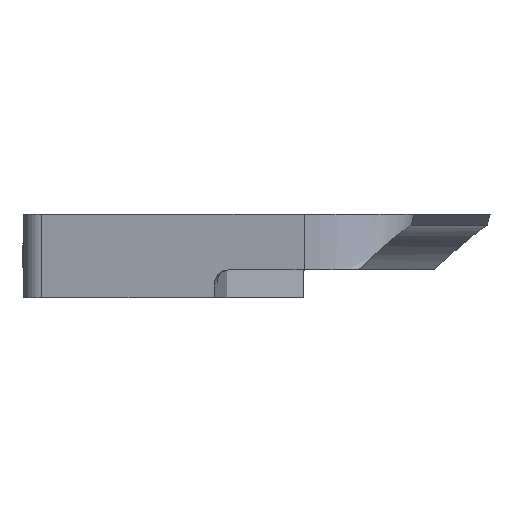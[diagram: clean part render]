
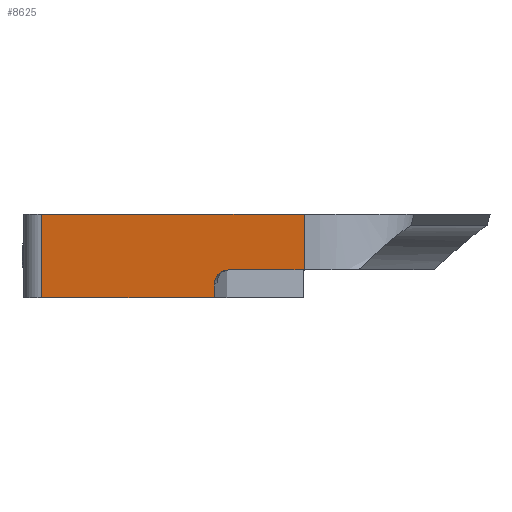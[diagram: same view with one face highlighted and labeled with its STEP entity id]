
A CAD part, left-side view. The second image highlights one B-rep face of the part: STEP entity #8625.
In plain terms, the highlighted planar face has unit normal (-0.991, 0.133, 0) as drawn and (-1, 0, 0) by its records, which use the part's own axes.
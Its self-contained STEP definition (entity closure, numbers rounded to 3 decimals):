
#217 = CARTESIAN_POINT ( 'NONE',  ( -55., -14., -12. ) ) ;
#287 = EDGE_CURVE ( 'NONE', #7104, #1364, #4321, .T. ) ;
#317 = VERTEX_POINT ( 'NONE', #8636 ) ;
#1316 = VECTOR ( 'NONE', #2410, 1000. ) ;
#1364 = VERTEX_POINT ( 'NONE', #6613 ) ;
#1448 = ORIENTED_EDGE ( 'NONE', *, *, #9741, .T. ) ;
#1462 = VECTOR ( 'NONE', #9791, 1000. ) ;
#1605 = EDGE_CURVE ( 'NONE', #8162, #1364, #3897, .T. ) ;
#1750 = CARTESIAN_POINT ( 'NONE',  ( -55., -16., -10. ) ) ;
#1940 = CARTESIAN_POINT ( 'NONE',  ( -55., -27., -8. ) ) ;
#2093 = VECTOR ( 'NONE', #10181, 1000. ) ;
#2244 = DIRECTION ( 'NONE',  ( 0., 0., 1. ) ) ;
#2290 = CARTESIAN_POINT ( 'NONE',  ( -55., -8., -8. ) ) ;
#2410 = DIRECTION ( 'NONE',  ( 0., 0., 1. ) ) ;
#2596 = DIRECTION ( 'NONE',  ( 0., 0., -1. ) ) ;
#2678 = LINE ( 'NONE', #7246, #9048 ) ;
#2718 = ORIENTED_EDGE ( 'NONE', *, *, #8356, .T. ) ;
#3231 = CARTESIAN_POINT ( 'NONE',  ( -55., 11., -12. ) ) ;
#3456 = EDGE_CURVE ( 'NONE', #6763, #7104, #8586, .T. ) ;
#3503 = VERTEX_POINT ( 'NONE', #4351 ) ;
#3595 = VERTEX_POINT ( 'NONE', #1940 ) ;
#3605 = DIRECTION ( 'NONE',  ( 0., -1., 0. ) ) ;
#3691 = CIRCLE ( 'NONE', #7168, 2. ) ;
#3897 = LINE ( 'NONE', #6114, #10320 ) ;
#4321 = LINE ( 'NONE', #6807, #2093 ) ;
#4351 = CARTESIAN_POINT ( 'NONE',  ( -55., -14., -10. ) ) ;
#5176 = DIRECTION ( 'NONE',  ( 0., 1., 0. ) ) ;
#6114 = CARTESIAN_POINT ( 'NONE',  ( -55., -8., 0. ) ) ;
#6613 = CARTESIAN_POINT ( 'NONE',  ( -55., 11., 0. ) ) ;
#6714 = ORIENTED_EDGE ( 'NONE', *, *, #287, .F. ) ;
#6763 = VERTEX_POINT ( 'NONE', #217 ) ;
#6807 = CARTESIAN_POINT ( 'NONE',  ( -55., 11., -6. ) ) ;
#6902 = EDGE_CURVE ( 'NONE', #6763, #3503, #2678, .T. ) ;
#6958 = DIRECTION ( 'NONE',  ( 0., 1., 0. ) ) ;
#7104 = VERTEX_POINT ( 'NONE', #3231 ) ;
#7168 = AXIS2_PLACEMENT_3D ( 'NONE', #1750, #7622, #2596 ) ;
#7246 = CARTESIAN_POINT ( 'NONE',  ( -55., -14., -6. ) ) ;
#7372 = FACE_OUTER_BOUND ( 'NONE', #9645, .T. ) ;
#7622 = DIRECTION ( 'NONE',  ( 1., 0., 0. ) ) ;
#7775 = CARTESIAN_POINT ( 'NONE',  ( -55., 11., -12. ) ) ;
#8035 = ORIENTED_EDGE ( 'NONE', *, *, #6902, .T. ) ;
#8162 = VERTEX_POINT ( 'NONE', #9632 ) ;
#8256 = CARTESIAN_POINT ( 'NONE',  ( -55., -27., -6. ) ) ;
#8356 = EDGE_CURVE ( 'NONE', #317, #3595, #8406, .T. ) ;
#8406 = LINE ( 'NONE', #2290, #1462 ) ;
#8582 = DIRECTION ( 'NONE',  ( -1., 0., 0. ) ) ;
#8586 = LINE ( 'NONE', #9232, #10550 ) ;
#8625 = ADVANCED_FACE ( 'NONE', ( #7372 ), #10131, .T. ) ;
#8636 = CARTESIAN_POINT ( 'NONE',  ( -55., -16., -8. ) ) ;
#8666 = ORIENTED_EDGE ( 'NONE', *, *, #1605, .T. ) ;
#9048 = VECTOR ( 'NONE', #2244, 1000. ) ;
#9232 = CARTESIAN_POINT ( 'NONE',  ( -55., 0., -12. ) ) ;
#9308 = EDGE_CURVE ( 'NONE', #3595, #8162, #9945, .T. ) ;
#9622 = ORIENTED_EDGE ( 'NONE', *, *, #9308, .T. ) ;
#9632 = CARTESIAN_POINT ( 'NONE',  ( -55., -27., 0. ) ) ;
#9645 = EDGE_LOOP ( 'NONE', ( #8666, #6714, #9748, #8035, #1448, #2718, #9622 ) ) ;
#9741 = EDGE_CURVE ( 'NONE', #3503, #317, #3691, .T. ) ;
#9748 = ORIENTED_EDGE ( 'NONE', *, *, #3456, .F. ) ;
#9791 = DIRECTION ( 'NONE',  ( 0., -1., 0. ) ) ;
#9945 = LINE ( 'NONE', #8256, #1316 ) ;
#10011 = AXIS2_PLACEMENT_3D ( 'NONE', #7775, #8582, #3605 ) ;
#10131 = PLANE ( 'NONE',  #10011 ) ;
#10181 = DIRECTION ( 'NONE',  ( 0., 0., 1. ) ) ;
#10320 = VECTOR ( 'NONE', #6958, 1000. ) ;
#10550 = VECTOR ( 'NONE', #5176, 1000. ) ;
